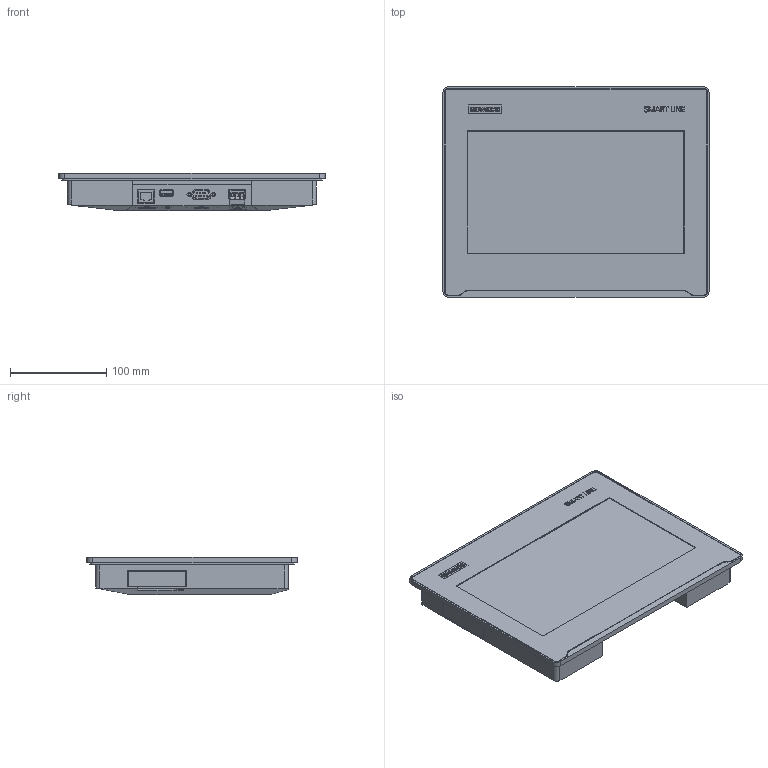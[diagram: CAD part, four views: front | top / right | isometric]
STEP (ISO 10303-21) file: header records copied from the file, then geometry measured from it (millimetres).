
FILE_DESCRIPTION(/* description */ (''),/* implementation_level */ '2;1');
FILE_NAME(/* name */ '6AV6648-0EE11-3AX0_3d.stp',/* time_stamp */ '2025-03-07T06:10:05+01:00',/* author */ (''),/* organization */ (''),/* preprocessor_version */ 'ST-DEVELOPER v18.102',/* originating_system */ 'SIEMENS PLM Software NX 2023',/* authorisation */ '');
FILE_SCHEMA (('AUTOMOTIVE_DESIGN { 1 0 10303 214 3 1 1 1 }'));
Products named in the file (6): A5E54387933A_RS-AA_001_1-Cover_IOT; A5E54387313A_RS-AA_001_1-Cover_SD; A5E51764813A_RS-AA_001_2-PLUG_RECT_FEMALE_3P_STR_SCREW; A5E54372173A_RS-AA_001_2-Labeling; A5E54368838A_RS-AA_001_2-Box-10; A5E54387034A_RS-AA_001_1-CAx_6AV66480EE113AX0
Assembly tree (5 placements, depth 2):
  A5E54387034A_RS-AA_001_1-CAx_6AV66480EE113AX0
    A5E54368838A_RS-AA_001_2-Box-10
    A5E54372173A_RS-AA_001_2-Labeling
    A5E51764813A_RS-AA_001_2-PLUG_RECT_FEMALE_3P_STR_SCREW
    A5E54387313A_RS-AA_001_1-Cover_SD
    A5E54387933A_RS-AA_001_1-Cover_IOT
Bounding box: 276 x 218 x 38.7 mm (x, y, z)
Volume: 1544935 mm3; surface area: 191990.7 mm2
Topology: 114 solids, 114 shells, 1940 faces, 4849 edges, 3223 vertices
Faces by surface type: plane 1511, extrusion 227, cylinder 183, bspline 19
Full cylindrical faces by diameter (mm): 1.14 x9, 1.4 x3, 2.8 x3, 3.409 x3, 3.783 x3, 4 x3, 4.2 x1, 4.6 x1
Entity records: 75936 total; most frequent: CARTESIAN_POINT 21928, ORIENTED_EDGE 9620, DIRECTION 7985, EDGE_CURVE 4810, VECTOR 3839, LINE 3612, VERTEX_POINT 3219, EDGE_LOOP 2131
